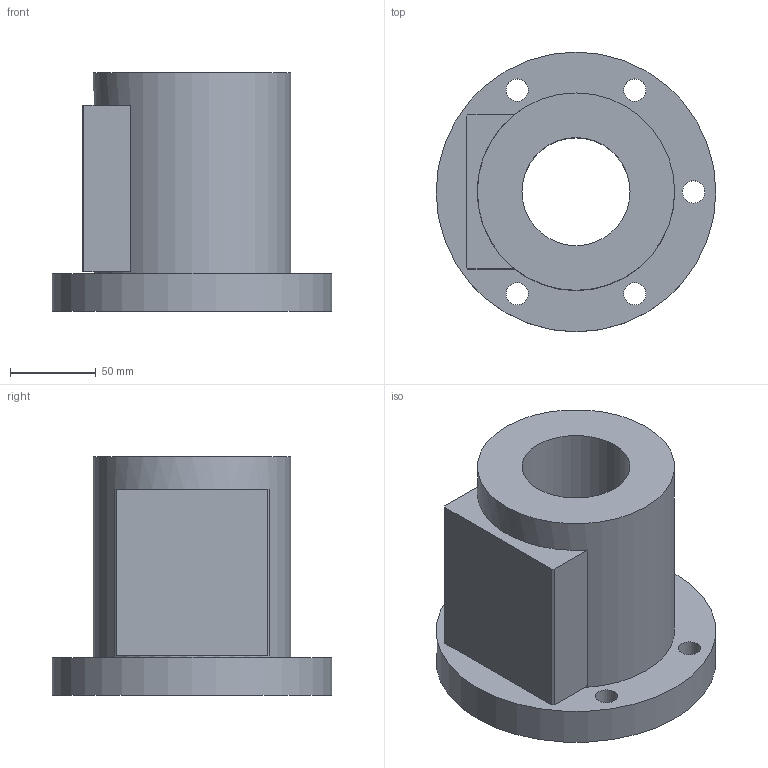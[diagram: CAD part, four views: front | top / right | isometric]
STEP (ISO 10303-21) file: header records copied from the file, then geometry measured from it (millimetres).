
FILE_DESCRIPTION(/* description */ (''),/* implementation_level */ '2;1');
FILE_NAME(/* name */ '80-10B3',/* time_stamp */ '2006-07-31T13:05:52+08:00',/* author */ (''),/* organization */ (''),/* preprocessor_version */ 'ST-DEVELOPER v9',/* originating_system */ 'UGS - NX 4.0',/* authorisation */ '');
FILE_SCHEMA (('CONFIG_CONTROL_DESIGN'));
Length unit declared in the file: millimetre
Products named in the file (1): 80-10B3
Bounding box: 163 x 163 x 139 mm (x, y, z)
Volume: 1328769.6 mm3; surface area: 127555.9 mm2
Topology: 1 solids, 1 shells, 28 faces, 61 edges, 42 vertices
Faces by surface type: plane 15, cylinder 13
Full cylindrical faces by diameter (mm): 13 x5, 20 x5, 63 x1, 115 x1, 163 x1
Entity records: 794 total; most frequent: DIRECTION 130, CARTESIAN_POINT 111, ORIENTED_EDGE 88, EDGE_LOOP 60, AXIS2_PLACEMENT_3D 57, FACE_BOUND 45, EDGE_CURVE 44, VERTEX_POINT 38
